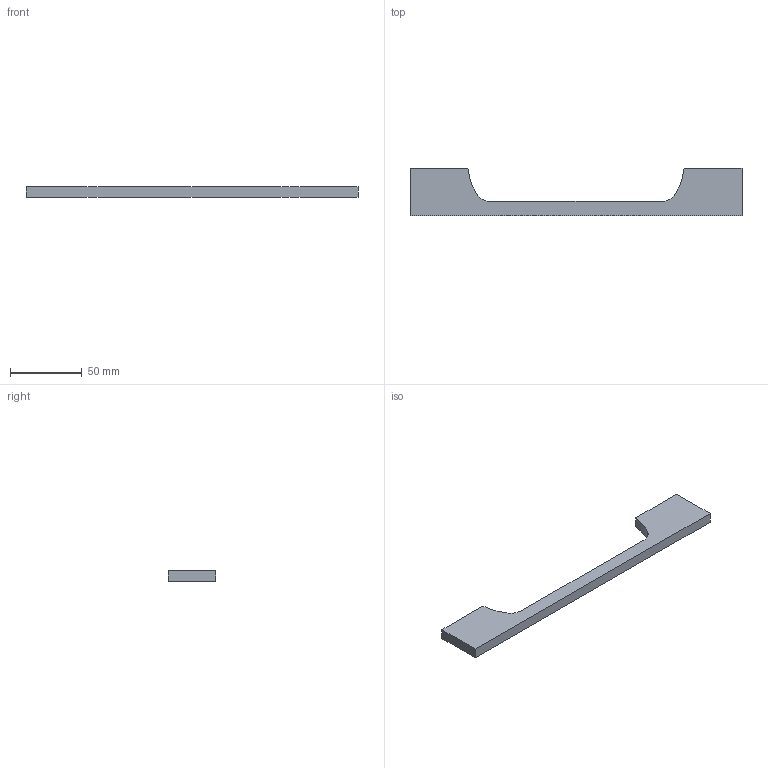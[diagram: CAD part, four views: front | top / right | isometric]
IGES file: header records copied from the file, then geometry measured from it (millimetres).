
Start section: Data from Parasolid IGES Translator 15.0.47, Copyright(c) 2006 Siemens P LM Software. All Rights Reserved.
Global section: file name: 9071926.igs; native system:  By UGS Corp.; preprocessor: XPlus GENERIC/IGES 3.0; author: Noname; organization: Noname; date: 20140122.182648; units: millimetre
Bounding box: 232 x 33 x 7.5 mm (x, y, z)
Surface area: 13305.5 mm2 (no closed solid volume)
Topology: 0 solids, 0 shells, 20 faces, 84 edges, 78 vertices
Faces by surface type: extrusion 12, revolution 8
